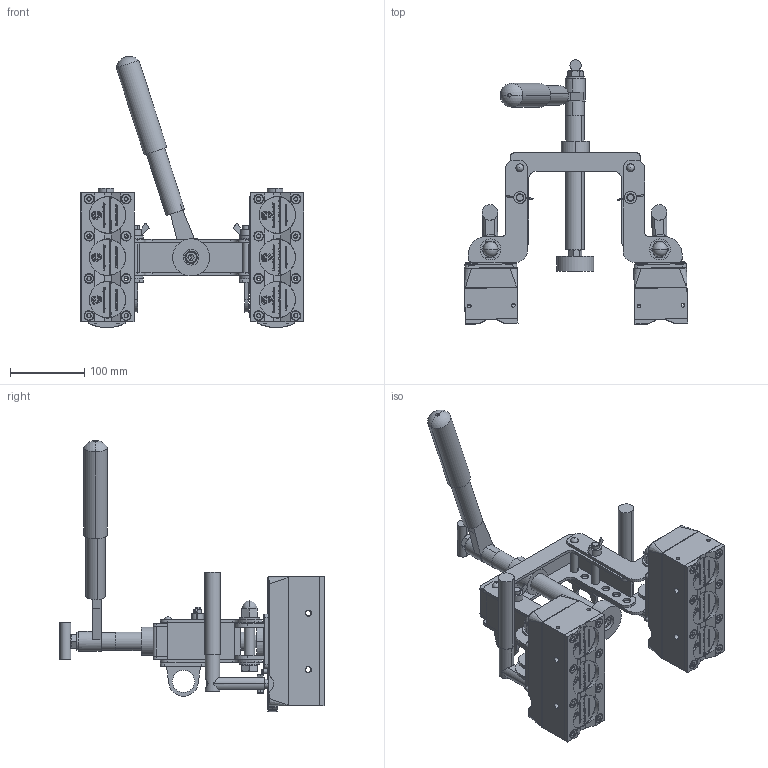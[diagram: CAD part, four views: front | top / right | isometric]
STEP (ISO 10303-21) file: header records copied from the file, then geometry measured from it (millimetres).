
FILE_DESCRIPTION (( 'STEP AP203' ), '1' );
FILE_NAME ('80001245_p.STEP', '2020-03-03T21:53:22', ( '' ), ( '' ), 'SwSTEP 2.0', 'SolidWorks 2018', '' );
FILE_SCHEMA (( 'CONFIG_CONTROL_DESIGN' ));
Products named in the file (1): 80001245_p
Bounding box: 300.6 x 355.85 x 365.11 mm (x, y, z)
Surface area: 484482.8 mm2 (no closed solid volume)
Topology: 0 solids, 270 shells, 1772 faces, 11000 edges, 9347 vertices
Faces by surface type: plane 944, cylinder 407, bspline 197, cone 180, sphere 24, torus 20
Entity records: 142187 total; most frequent: CARTESIAN_POINT 67327, ORIENTED_EDGE 13633, DIRECTION 12128, EDGE_CURVE 10950, VERTEX_POINT 9321, VECTOR 5788, LINE 5788, B_SPLINE_CURVE_WITH_KNOTS 3528
